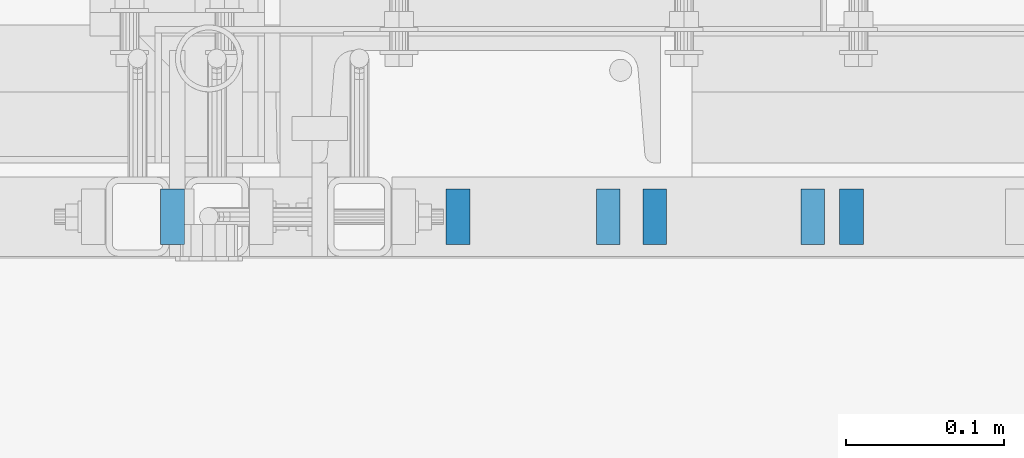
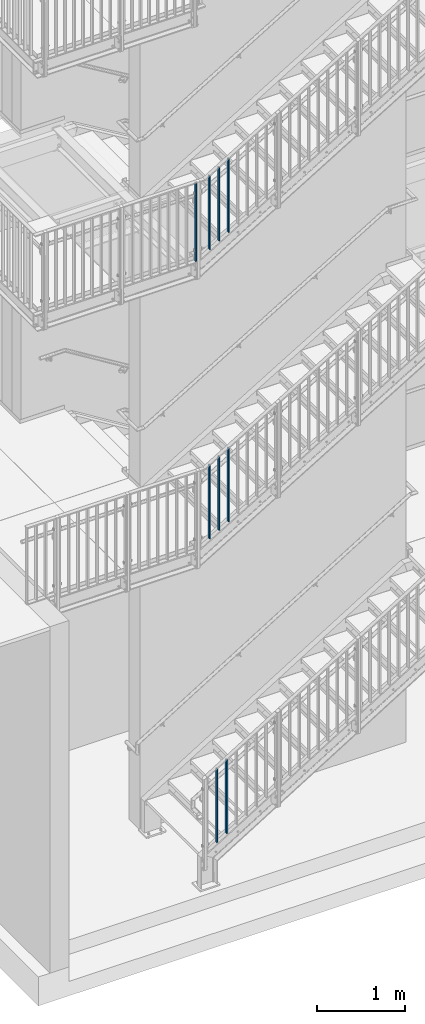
# One storey, part 5 of 410: 9 columns, 2 openings.
"""IFC2X3 building model written with IfcOpenShell, lengths in millimetres."""

import ifcopenshell
import ifcopenshell.guid

model = None  # the IFC model being written
_history = None  # IfcOwnerHistory: only IFC2X3 demands one
_inside = {}  # id of a spatial element -> (the spatial element, [elements in it])
_under = {}  # id of a project, library or spatial element -> (it, [spatial elements below it])
_declared = {}  # id of a project -> (the project, [libraries it declares])
_typed = {}  # id of a type object -> (the type object, [elements of that type])
_made_of = {}  # id of a material, layer set ... -> (it, [elements and type objects made of it])


def new_model(schema):
    """Start an empty IFC model of exactly this schema.

    Asked for "IFC4X3", IfcOpenShell would pick the latest addendum, in which some entities
    have other attributes; the version numbers below select the first issue.
    IFC2X3 requires an IfcOwnerHistory on every rooted entity: one is made here for all.
    """
    global model, _history
    if schema == "IFC4X3":
        model = ifcopenshell.file(schema_version=(4, 3, 0, 0))
    else:
        model = ifcopenshell.file(schema=schema)
    _inside.clear()
    _under.clear()
    _declared.clear()
    _typed.clear()
    _made_of.clear()
    _history = None
    if model.schema == "IFC2X3":
        org = make("IfcOrganization", Name="unknown")
        user = make(
            "IfcPersonAndOrganization",
            ThePerson=make("IfcPerson", FamilyName="unknown"),
            TheOrganization=org,
        )
        app = make(
            "IfcApplication",
            ApplicationDeveloper=org,
            Version="unknown",
            ApplicationFullName="unknown",
            ApplicationIdentifier="unknown",
        )
        _history = make(
            "IfcOwnerHistory",
            OwningUser=user,
            OwningApplication=app,
            ChangeAction="ADDED",
            CreationDate=0,
        )
    return model


def make(cls, **values):
    """One entity of the class cls with the attributes given. An attribute that is None is left unset."""
    return model.create_entity(
        cls, **{name: value for name, value in values.items() if value is not None}
    )


def entity(cls, *values):
    """Any entity or typed value of the class cls, its attributes in the order of the schema. None: left unset."""
    e = model.create_entity(cls)
    for i, value in enumerate(values):
        if value is not None:
            e[i] = value
    return e


def rooted(cls, **values):
    """An entity with a GlobalId (a new one), such as an element, a storey or a relation."""
    return make(cls, GlobalId=ifcopenshell.guid.new(), OwnerHistory=_history, **values)


def si_unit(unit_type, name, prefix=None):
    """IfcSIUnit, for example si_unit("LENGTHUNIT", "METRE", prefix="MILLI")."""
    return make("IfcSIUnit", UnitType=unit_type, Prefix=prefix, Name=name)


def converted_unit(unit_type, name, factor, base, dimensions=None, offset=None):
    """IfcConversionBasedUnit, such as the inch: factor (a typed value) times the base unit."""
    return make(
        "IfcConversionBasedUnit"
        if offset is None
        else "IfcConversionBasedUnitWithOffset",
        ConversionOffset=offset,
        Dimensions=None
        if dimensions is None
        else entity("IfcDimensionalExponents", *dimensions),
        UnitType=unit_type,
        Name=name,
        ConversionFactor=make(
            "IfcMeasureWithUnit", ValueComponent=factor, UnitComponent=base
        ),
    )


def assignment(units):
    """IfcUnitAssignment: the units of a project."""
    return None if units is None else make("IfcUnitAssignment", Units=units)


def point(xyz):
    """IfcCartesianPoint."""
    return None if xyz is None else make("IfcCartesianPoint", Coordinates=xyz)


def direction(xyz):
    """IfcDirection."""
    return None if xyz is None else make("IfcDirection", DirectionRatios=xyz)


def frame(location, z_axis=None, x_axis=None):
    """IfcAxis2Placement3D, a coordinate frame: its origin and axes. An axis left out is left unset."""
    return make(
        "IfcAxis2Placement3D",
        Location=point(location),
        Axis=direction(z_axis),
        RefDirection=direction(x_axis),
    )


def frame_2d(location, x_axis=None):
    """IfcAxis2Placement2D, a coordinate frame in the plane: its origin and x axis."""
    return make(
        "IfcAxis2Placement2D", Location=point(location), RefDirection=direction(x_axis)
    )


def origin():
    """The frame at (0, 0, 0) with its axes left unset."""
    return frame((0.0, 0.0, 0.0))


def origin_with_axes():
    """The frame at (0, 0, 0) with the z axis (0, 0, 1) and the x axis (1, 0, 0) written out."""
    return frame((0.0, 0.0, 0.0), z_axis=(0.0, 0.0, 1.0), x_axis=(1.0, 0.0, 0.0))


def origin_2d():
    """The frame at (0, 0) in the plane with its x axis left unset."""
    return frame_2d((0.0, 0.0))


def place(relative_to, where):
    """IfcLocalPlacement: puts the frame where relative to a parent placement (None: the world)."""
    return make(
        "IfcLocalPlacement", PlacementRelTo=relative_to, RelativePlacement=where
    )


def context(
    kind, dimensions, precision=None, world=None, true_north=None, identifier=None
):
    """IfcGeometricRepresentationContext, for example the 3D "Model" context."""
    return make(
        "IfcGeometricRepresentationContext",
        ContextIdentifier=identifier,
        ContextType=kind,
        CoordinateSpaceDimension=dimensions,
        Precision=precision,
        WorldCoordinateSystem=world,
        TrueNorth=true_north,
    )


def project(units=None, contexts=None):
    """IfcProject with its units and contexts."""
    return rooted(
        "IfcProject",
        Name="project",
        RepresentationContexts=contexts,
        UnitsInContext=assignment(units),
    )


def spatial(cls, under=None, at=None, **own):
    """A site, building, storey or space (cls), placed at a placement, below another one or the project."""
    s = rooted(cls, ObjectPlacement=at, **own)
    if under is not None:
        _under.setdefault(under.id(), (under, []))[1].append(s)
    return s


def profile(cls, at=None, kind="AREA", **sizes):
    """A parametric profile (cls). Its sizes go by their IFC names, for example OverallWidth=200.0."""
    return make(cls, ProfileType=kind, Position=at, **sizes)


def rectangle(**sizes):
    """IfcRectangleProfileDef."""
    return profile("IfcRectangleProfileDef", **sizes)


def circle(**sizes):
    """IfcCircleProfileDef."""
    return profile("IfcCircleProfileDef", **sizes)


def extrude(swept, where, along, depth):
    """IfcExtrudedAreaSolid: the profile swept, set in the frame where, extruded along a direction by depth."""
    return make(
        "IfcExtrudedAreaSolid",
        SweptArea=swept,
        Position=where,
        ExtrudedDirection=direction(along),
        Depth=depth,
    )


def shape(context_of_items, identifier, shape_type, items):
    """IfcShapeRepresentation: the items that make up one representation, for example the "Body"."""
    return make(
        "IfcShapeRepresentation",
        ContextOfItems=context_of_items,
        RepresentationIdentifier=identifier,
        RepresentationType=shape_type,
        Items=items,
    )


def material(Name=None, Category=None):
    """IfcMaterial."""
    return make("IfcMaterial", Name=Name, Category=Category)


def made_of(thing, what):
    """Note that an element or type object is made of a material, layer set ...; save() writes the relation."""
    if what is not None:
        _made_of.setdefault(what.id(), (what, []))[1].append(thing)
    return thing


def element(
    cls,
    number,
    at=None,
    inside=None,
    cuts=None,
    type_object=None,
    material=None,
    context=None,
    identifier="Body",
    shape_type=None,
    held_by="IfcProductDefinitionShape",
    body=None,
    shapes=None,
    **own,
):
    """One element of the class cls, such as IfcWall. Its Tag is "e" and its number.

    at: its placement. inside: the storey or other place that contains it. cuts: it is an
    opening in that element (IfcRelVoidsElement). A single representation is given by context,
    identifier, shape_type and body (its items); several are given by shapes. held_by: the class
    of the entity that holds the representations. save() writes the other relations.
    """
    e = rooted(cls, Tag="e%d" % number, ObjectPlacement=at, **own)
    if body is not None:
        shapes = [shape(context, identifier, shape_type, body)]
    if shapes is not None:
        e.Representation = make(held_by, Representations=shapes)
    if inside is not None:
        _inside.setdefault(inside.id(), (inside, []))[1].append(e)
    if cuts is not None:
        rooted(
            "IfcRelVoidsElement", RelatingBuildingElement=cuts, RelatedOpeningElement=e
        )
    if type_object is not None:
        _typed.setdefault(type_object.id(), (type_object, []))[1].append(e)
    return made_of(e, material)


def aggregate(whole, parts):
    """IfcRelAggregates: a whole, such as a stair, and the parts it consists of."""
    return rooted("IfcRelAggregates", RelatingObject=whole, RelatedObjects=parts)


def save(model, path):
    """Write the relations noted so far, then the file.

    IfcRelAggregates (storeys below a building ...), IfcRelContainedInSpatialStructure (elements
    in a storey), IfcRelDefinesByType, IfcRelAssociatesMaterial and IfcRelDeclares: one each for
    every whole, place, type object, material and project.
    """
    for whole, parts in _under.values():
        aggregate(whole, parts)
    for where, things in _inside.values():
        rooted(
            "IfcRelContainedInSpatialStructure",
            RelatedElements=things,
            RelatingStructure=where,
        )
    for kind, things in _typed.values():
        rooted("IfcRelDefinesByType", RelatedObjects=things, RelatingType=kind)
    for what, things in _made_of.values():
        rooted("IfcRelAssociatesMaterial", RelatedObjects=things, RelatingMaterial=what)
    for by, libraries in _declared.values():
        rooted("IfcRelDeclares", RelatingContext=by, RelatedDefinitions=libraries)
    model.write(path)


model = new_model("IFC2X3")

# Units and contexts
model_context = context("Model", 3, precision=1e-09, world=origin_with_axes())
ifc_project = project(units=[si_unit("LENGTHUNIT", "METRE", prefix="MILLI"), si_unit("AREAUNIT", "SQUARE_METRE"), si_unit("VOLUMEUNIT", "CUBIC_METRE"), converted_unit("PLANEANGLEUNIT", "DEGREE", entity("IfcPlaneAngleMeasure", 0.01745329), si_unit("PLANEANGLEUNIT", "RADIAN"), dimensions=[0, 0, 0, 0, 0, 0, 0])], contexts=[model_context])

# Site, building, storey
site_placement = place(None, origin_with_axes())
site = spatial("IfcSite", under=ifc_project, at=site_placement, Name="mKR Teilneubau & Sanierung BA1 - Ostfildern", CompositionType="ELEMENT")
building_placement = place(site_placement, origin_with_axes())
building = spatial("IfcBuilding", under=site, at=building_placement, Name="Struktur 1", CompositionType="ELEMENT")
storey_placement = place(building_placement, origin_with_axes())
storey = spatial("IfcBuildingStorey", under=building, at=storey_placement, Name="Default Storey", CompositionType="ELEMENT", Elevation=0.0)

# Columns
ifc_material = material(Name="S235JR")
for number, where, z_axis, x_axis in (
    (1, (-1632.748531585, 15405.999999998, 5121.554638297), (0.0, 0.0, 1.0), (-1.0, 0.0, 0.0)),
    (2, (-1508.498531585, 15405.999999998, 5196.533086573), (0.0, 0.0, 1.0), (-1.0, 0.0, 0.0)),
    (3, (-1384.248531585, 15405.999999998, 5271.511534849), (0.0, 0.0, 1.0), (-1.0, 0.0, 0.0)),
):
    element("IfcColumn", number, at=place(None, frame(where, z_axis=z_axis, x_axis=x_axis)), inside=storey, material=ifc_material, Name="-", ObjectType="-", context=model_context, shape_type="SweptSolid", body=[
        extrude(rectangle(XDim=15.0, YDim=35.0, at=origin_2d()), origin(), (0.0, 0.0, -1.0), 1020.870181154),
    ])
for number, where, z_axis, x_axis in (
    (4, (-1632.74853167, 15405.999999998, 1121.340923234), (0.0, 0.0, 1.0), (-1.0, 0.0, 0.0)),
    (5, (-1508.49853167, 15405.999999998, 1195.853666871), (0.0, 0.0, 1.0), (-1.0, 0.0, 0.0)),
    (6, (-1384.24853167, 15405.999999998, 1270.366410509), (0.0, 0.0, 1.0), (-1.0, 0.0, 0.0)),
):
    element("IfcColumn", number, at=place(None, frame(where, z_axis=z_axis, x_axis=x_axis)), inside=storey, material=ifc_material, Name="-", ObjectType="-", context=model_context, shape_type="SweptSolid", body=[
        extrude(rectangle(XDim=15.0, YDim=35.0, at=origin_2d()), origin(), (0.0, 0.0, -1.0), 1021.042329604),
    ])
for number, where, z_axis, x_axis in (
    (7, (-1537.855674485, 15405.999999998, -4130.657104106), (0.0, 0.0, -1.0), (1.0, 0.0, 0.0)),
    (8, (-1408.712817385, 15405.999999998, -4051.033852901), (0.0, 0.0, -1.0), (1.0, 0.0, 0.0)),
):
    element("IfcColumn", number, at=place(None, frame(where, z_axis=z_axis, x_axis=x_axis)), inside=storey, material=ifc_material, Name="-", ObjectType="-", context=model_context, shape_type="SweptSolid", body=[
        extrude(rectangle(XDim=15.0, YDim=35.0, at=origin_2d()), origin(), (0.0, 0.0, -1.0), 1020.264209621),
    ])

# Column, openings
column_placement = place(None, frame((-1812.99853167, 15405.999999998, 5085.0), z_axis=(0.0, 0.0, 1.0), x_axis=(-1.0, 0.0, 0.0)))
column = element("IfcColumn", 9, at=column_placement, inside=storey, material=ifc_material, Name="-", ObjectType="-", context=model_context, shape_type="SweptSolid", body=[
    extrude(rectangle(XDim=15.0, YDim=35.0, at=origin_2d()), origin(), (0.0, 0.0, -1.0), 1085.0),
])
opening_1_placement = place(column_placement, frame((-8.0, -6.001, -935.0), z_axis=(-1.0, 0.0, 0.0), x_axis=(0.0, -1.0, 0.0)))
element("IfcOpeningElement", 10, at=opening_1_placement, cuts=column, ObjectType="Opening", context=model_context, shape_type="SweptSolid", body=[
    extrude(circle(Radius=6.001, at=frame_2d((-6.001, 0.0), x_axis=(1.0, 0.0))), origin(), (0.0, 0.0, -1.0), 16.0),
])
opening_2_placement = place(column_placement, frame((-8.0, -6.001, -150.0), z_axis=(-1.0, 0.0, 0.0), x_axis=(0.0, -1.0, 0.0)))
element("IfcOpeningElement", 11, at=opening_2_placement, cuts=column, ObjectType="Opening", context=model_context, shape_type="SweptSolid", body=[
    extrude(circle(Radius=6.001, at=frame_2d((-6.001, 0.0), x_axis=(1.0, 0.0))), origin(), (0.0, 0.0, -1.0), 16.0),
])

save(model, "model.ifc")
